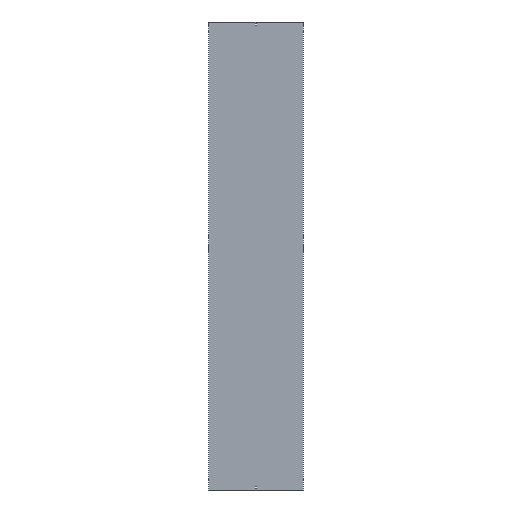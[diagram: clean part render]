
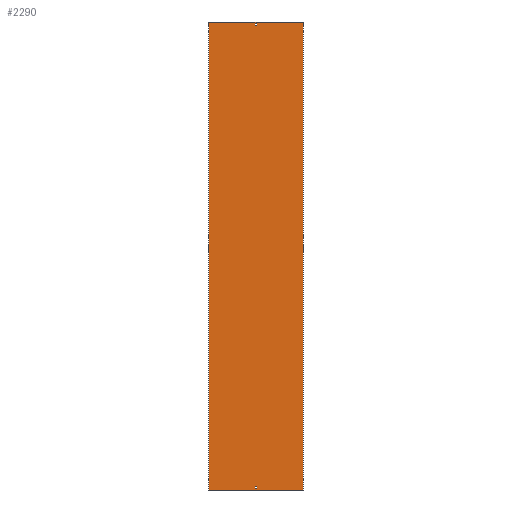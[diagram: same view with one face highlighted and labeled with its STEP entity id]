
A CAD part, front view. The second image highlights one B-rep face of the part: STEP entity #2290.
In plain terms, the highlighted planar face has unit normal (0, -1, 0).
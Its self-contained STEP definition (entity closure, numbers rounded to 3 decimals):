
#11 = VECTOR ( 'NONE', #854, 1000. ) ;
#65 = EDGE_CURVE ( 'NONE', #360, #2534, #590, .T. ) ;
#76 = ORIENTED_EDGE ( 'NONE', *, *, #431, .T. ) ;
#87 = DIRECTION ( 'NONE',  ( -1., 0., 0. ) ) ;
#155 = ORIENTED_EDGE ( 'NONE', *, *, #2525, .F. ) ;
#165 = VECTOR ( 'NONE', #565, 1000. ) ;
#170 = CARTESIAN_POINT ( 'NONE',  ( -3.25, 0., 1479. ) ) ;
#182 = DIRECTION ( 'NONE',  ( 1., 0., 0. ) ) ;
#196 = EDGE_CURVE ( 'NONE', #554, #2708, #409, .T. ) ;
#198 = CARTESIAN_POINT ( 'NONE',  ( 3.25, 0., -1488. ) ) ;
#223 = DIRECTION ( 'NONE',  ( 0., 0., -1. ) ) ;
#257 = CARTESIAN_POINT ( 'NONE',  ( -3.25, 0., 1479. ) ) ;
#277 = CARTESIAN_POINT ( 'NONE',  ( 3.25, 0., -1488. ) ) ;
#345 = ORIENTED_EDGE ( 'NONE', *, *, #1506, .T. ) ;
#360 = VERTEX_POINT ( 'NONE', #2115 ) ;
#409 = LINE ( 'NONE', #198, #1278 ) ;
#421 = ORIENTED_EDGE ( 'NONE', *, *, #2450, .T. ) ;
#431 = EDGE_CURVE ( 'NONE', #1790, #572, #1949, .T. ) ;
#472 = VERTEX_POINT ( 'NONE', #1341 ) ;
#554 = VERTEX_POINT ( 'NONE', #1799 ) ;
#565 = DIRECTION ( 'NONE',  ( 0., 0., 1. ) ) ;
#567 = ORIENTED_EDGE ( 'NONE', *, *, #196, .T. ) ;
#572 = VERTEX_POINT ( 'NONE', #1457 ) ;
#590 = LINE ( 'NONE', #1630, #976 ) ;
#634 = EDGE_CURVE ( 'NONE', #1424, #472, #1262, .T. ) ;
#647 = DIRECTION ( 'NONE',  ( -1., 0., 0. ) ) ;
#664 = CARTESIAN_POINT ( 'NONE',  ( -302., 0., -1500. ) ) ;
#792 = ORIENTED_EDGE ( 'NONE', *, *, #2155, .T. ) ;
#819 = DIRECTION ( 'NONE',  ( 0., 0., 1. ) ) ;
#823 = VECTOR ( 'NONE', #223, 1000. ) ;
#832 = VERTEX_POINT ( 'NONE', #968 ) ;
#854 = DIRECTION ( 'NONE',  ( 0., 0., -1. ) ) ;
#868 = DIRECTION ( 'NONE',  ( 1., 0., 0. ) ) ;
#900 = FACE_OUTER_BOUND ( 'NONE', #955, .T. ) ;
#946 = CARTESIAN_POINT ( 'NONE',  ( 302., 0., 1500. ) ) ;
#955 = EDGE_LOOP ( 'NONE', ( #792, #989, #155, #76 ) ) ;
#968 = CARTESIAN_POINT ( 'NONE',  ( 3.25, 0., 1488. ) ) ;
#976 = VECTOR ( 'NONE', #819, 1000. ) ;
#982 = LINE ( 'NONE', #2007, #1057 ) ;
#989 = ORIENTED_EDGE ( 'NONE', *, *, #634, .F. ) ;
#1057 = VECTOR ( 'NONE', #2459, 1000. ) ;
#1157 = VERTEX_POINT ( 'NONE', #1747 ) ;
#1172 = EDGE_CURVE ( 'NONE', #2764, #2041, #1592, .T. ) ;
#1184 = VECTOR ( 'NONE', #1722, 1000. ) ;
#1188 = LINE ( 'NONE', #2638, #165 ) ;
#1233 = ORIENTED_EDGE ( 'NONE', *, *, #1461, .F. ) ;
#1262 = LINE ( 'NONE', #2114, #11 ) ;
#1277 = LINE ( 'NONE', #664, #2482 ) ;
#1278 = VECTOR ( 'NONE', #1636, 1000. ) ;
#1304 = DIRECTION ( 'NONE',  ( 0., 1., 0. ) ) ;
#1341 = CARTESIAN_POINT ( 'NONE',  ( 302., 0., -1500. ) ) ;
#1414 = ORIENTED_EDGE ( 'NONE', *, *, #1172, .F. ) ;
#1417 = EDGE_LOOP ( 'NONE', ( #2750, #1414, #2481, #1233 ) ) ;
#1424 = VERTEX_POINT ( 'NONE', #946 ) ;
#1452 = CARTESIAN_POINT ( 'NONE',  ( -3.25, 0., 1488. ) ) ;
#1457 = CARTESIAN_POINT ( 'NONE',  ( -302., 0., -1500. ) ) ;
#1461 = EDGE_CURVE ( 'NONE', #1157, #832, #1188, .T. ) ;
#1470 = LINE ( 'NONE', #2325, #1552 ) ;
#1493 = EDGE_LOOP ( 'NONE', ( #1739, #421, #567, #345 ) ) ;
#1506 = EDGE_CURVE ( 'NONE', #2708, #360, #2037, .T. ) ;
#1552 = VECTOR ( 'NONE', #868, 1000. ) ;
#1592 = LINE ( 'NONE', #2719, #2295 ) ;
#1630 = CARTESIAN_POINT ( 'NONE',  ( -3.25, 0., -1488. ) ) ;
#1636 = DIRECTION ( 'NONE',  ( 0., 0., -1. ) ) ;
#1644 = DIRECTION ( 'NONE',  ( 0., 0., -1. ) ) ;
#1673 = AXIS2_PLACEMENT_3D ( 'NONE', #2557, #1304, #647 ) ;
#1707 = CARTESIAN_POINT ( 'NONE',  ( -302., 0., 1500. ) ) ;
#1719 = FACE_BOUND ( 'NONE', #1417, .T. ) ;
#1722 = DIRECTION ( 'NONE',  ( 1., 0., 0. ) ) ;
#1732 = DIRECTION ( 'NONE',  ( 1., 0., 0. ) ) ;
#1735 = LINE ( 'NONE', #257, #1184 ) ;
#1738 = EDGE_CURVE ( 'NONE', #2041, #1157, #1735, .T. ) ;
#1739 = ORIENTED_EDGE ( 'NONE', *, *, #65, .T. ) ;
#1747 = CARTESIAN_POINT ( 'NONE',  ( 3.25, 0., 1479. ) ) ;
#1790 = VERTEX_POINT ( 'NONE', #1707 ) ;
#1799 = CARTESIAN_POINT ( 'NONE',  ( 3.25, 0., -1479. ) ) ;
#1949 = LINE ( 'NONE', #2132, #823 ) ;
#1955 = EDGE_CURVE ( 'NONE', #832, #2764, #982, .T. ) ;
#2007 = CARTESIAN_POINT ( 'NONE',  ( -3.25, 0., 1488. ) ) ;
#2031 = VECTOR ( 'NONE', #182, 1000. ) ;
#2037 = LINE ( 'NONE', #2275, #2204 ) ;
#2041 = VERTEX_POINT ( 'NONE', #170 ) ;
#2114 = CARTESIAN_POINT ( 'NONE',  ( 302., 0., 1500. ) ) ;
#2115 = CARTESIAN_POINT ( 'NONE',  ( -3.25, 0., -1488. ) ) ;
#2132 = CARTESIAN_POINT ( 'NONE',  ( -302., 0., 1500. ) ) ;
#2133 = CARTESIAN_POINT ( 'NONE',  ( -3.25, 0., -1479. ) ) ;
#2155 = EDGE_CURVE ( 'NONE', #572, #472, #1277, .T. ) ;
#2204 = VECTOR ( 'NONE', #87, 1000. ) ;
#2275 = CARTESIAN_POINT ( 'NONE',  ( -3.25, 0., -1488. ) ) ;
#2290 = ADVANCED_FACE ( 'NONE', ( #900, #1719, #2371 ), #2343, .F. ) ;
#2295 = VECTOR ( 'NONE', #1644, 1000. ) ;
#2325 = CARTESIAN_POINT ( 'NONE',  ( -302., 0., 1500. ) ) ;
#2343 = PLANE ( 'NONE',  #1673 ) ;
#2371 = FACE_BOUND ( 'NONE', #1493, .T. ) ;
#2450 = EDGE_CURVE ( 'NONE', #2534, #554, #2484, .T. ) ;
#2459 = DIRECTION ( 'NONE',  ( -1., 0., 0. ) ) ;
#2481 = ORIENTED_EDGE ( 'NONE', *, *, #1955, .F. ) ;
#2482 = VECTOR ( 'NONE', #1732, 1000. ) ;
#2484 = LINE ( 'NONE', #2707, #2031 ) ;
#2525 = EDGE_CURVE ( 'NONE', #1790, #1424, #1470, .T. ) ;
#2534 = VERTEX_POINT ( 'NONE', #2133 ) ;
#2557 = CARTESIAN_POINT ( 'NONE',  ( -302., 0., 1500. ) ) ;
#2638 = CARTESIAN_POINT ( 'NONE',  ( 3.25, 0., 1488. ) ) ;
#2707 = CARTESIAN_POINT ( 'NONE',  ( -3.25, 0., -1479. ) ) ;
#2708 = VERTEX_POINT ( 'NONE', #277 ) ;
#2719 = CARTESIAN_POINT ( 'NONE',  ( -3.25, 0., 1488. ) ) ;
#2750 = ORIENTED_EDGE ( 'NONE', *, *, #1738, .F. ) ;
#2764 = VERTEX_POINT ( 'NONE', #1452 ) ;
